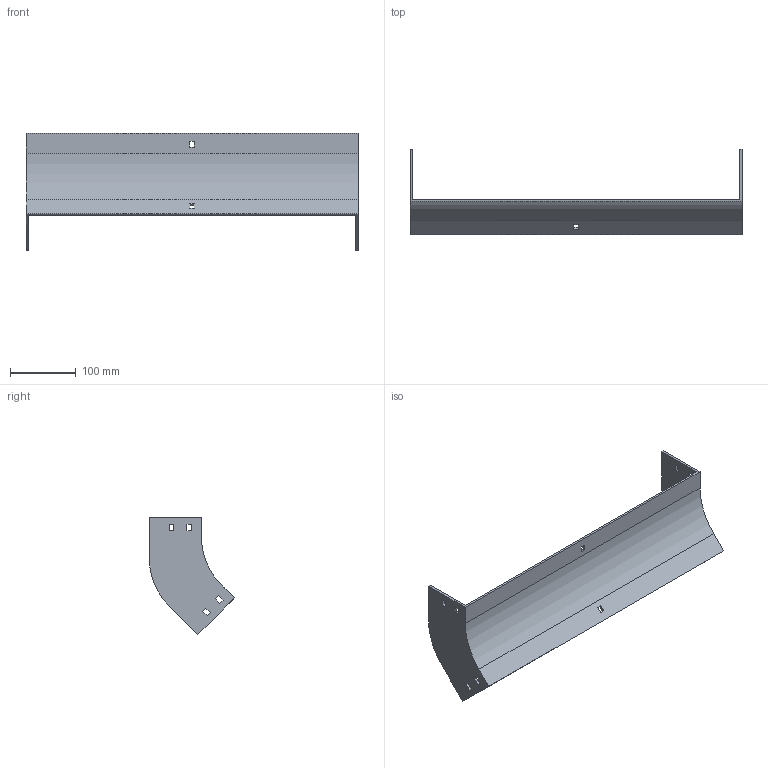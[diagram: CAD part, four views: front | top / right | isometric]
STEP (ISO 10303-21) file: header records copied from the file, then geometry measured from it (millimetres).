
FILE_DESCRIPTION (( 'STEP AP214' ), '1' );
FILE_NAME ('34F1C500.step', '2025-02-21T12:51:35', ( '' ), ( '' ), 'SwSTEP 2.0', 'SolidWorks 2023', '' );
FILE_SCHEMA (( 'AUTOMOTIVE_DESIGN' ));
Length unit declared in the file: millimetre
Products named in the file (1): 34F1C500
Bounding box: 504 x 129.5 x 177.79 mm (x, y, z)
Volume: 338099.1 mm3; surface area: 200371.8 mm2
Topology: 1 solids, 1 shells, 58 faces, 168 edges, 112 vertices
Faces by surface type: plane 54, cylinder 4
Entity records: 1943 total; most frequent: CARTESIAN_POINT 339, ORIENTED_EDGE 336, DIRECTION 294, EDGE_CURVE 168, VECTOR 160, LINE 160, VERTEX_POINT 112, EDGE_LOOP 78
